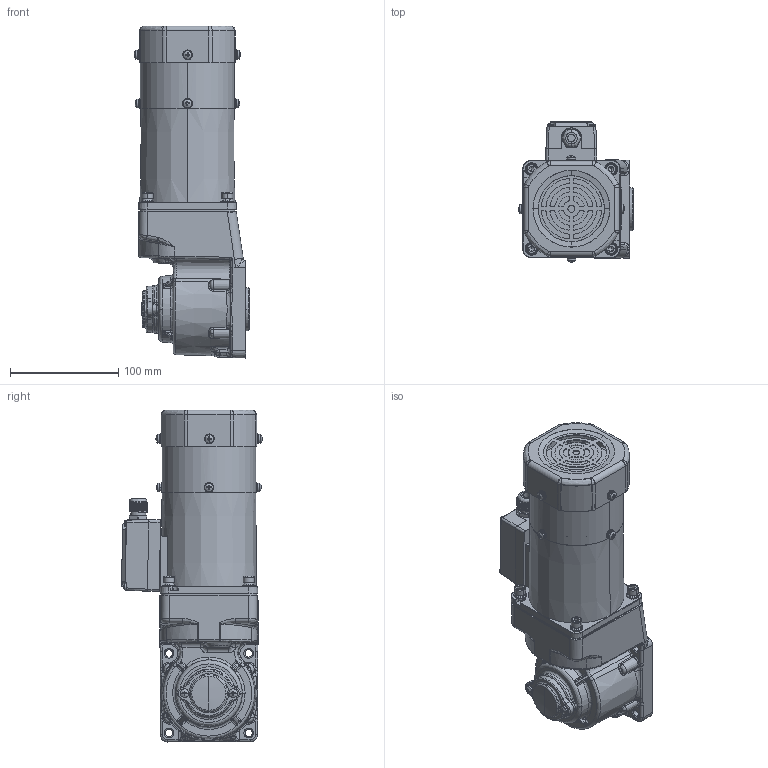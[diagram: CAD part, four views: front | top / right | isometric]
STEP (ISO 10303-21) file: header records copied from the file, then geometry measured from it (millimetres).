
FILE_DESCRIPTION (( 'STEP AP203' ), '1' );
FILE_NAME ('5RK60GU-CMFT(5GU3RC-180RC)ÐÂ.STEP', '2023-08-17T07:19:35', ( 'Windows User' ), ( 'P R C' ), 'SwSTEP 2.0', 'SolidWorks 2019', '' );
FILE_SCHEMA (( 'CONFIG_CONTROL_DESIGN' ));
Length unit declared in the file: millimetre
Products named in the file (9): 90RT____________^5RK60GU-CMFT(5GU3RC-180RC)ÐÂ(2)_5RK60GU-CMFT(5GU3RC-180RC)ÐÂ; ZD-5GU50RC-505-003______1^5RK60GU-CMFT(5GU3RC-180RC)ÐÂ(2)_5RK60GU-CMFT(5GU3RC-180RC)ÐÂ; 5RK60GU-CMFT(5GU3RC-180RC)陔; 90__________-0^5RK60GU-CMFT(5GU3RC-180RC)陔(2)_5RK60GU-CMFT(5GU3RC-180RC)陔; 5RK60GU-CMFT(5GU3RT-180RT)^5RK60GU-CMFT(5GU3RC-180RC)ÐÂ(2)_5RK60GU-CMFT(5GU3RC-180RC)ÐÂ; cross recessed pan head screws gb_GB_CROSS_SCREWS_TYPE1 M4X6-6  H type-N^5RK60GU-CMFT(5GU3RC-180RC)ÐÂ(2)_5RK60GU-CMFT(5GU3RC-180RC)ÐÂ; hexagon socket head cap screws gb_GB_FASTENER_SCREWS_HSHCS M5X12-N^5RK60GU-CMFT(5GU3RC-180RC)ÐÂ(2)_5RK60GU-CMFT(5GU3RC-180RC)ÐÂ; 90__________^5RK60GU-CMFT(5GU3RC-180RC)陔(2)_5RK60GU-CMFT(5GU3RC-180RC)陔; 5RK60GU-CMFT(5GU3RC-180RC)陔(2)^5RK60GU-CMFT(5GU3RC-180RC)陔
Assembly tree (12 placements, depth 3):
  5RK60GU-CMFT(5GU3RC-180RC)陔
    5RK60GU-CMFT(5GU3RC-180RC)陔(2)^5RK60GU-CMFT(5GU3RC-180RC)陔
      90__________^5RK60GU-CMFT(5GU3RC-180RC)陔(2)_5RK60GU-CMFT(5GU3RC-180RC)陔
      90RT____________^5RK60GU-CMFT(5GU3RC-180RC)ÐÂ(2)_5RK60GU-CMFT(5GU3RC-180RC)ÐÂ
      90__________-0^5RK60GU-CMFT(5GU3RC-180RC)陔(2)_5RK60GU-CMFT(5GU3RC-180RC)陔
      hexagon socket head cap screws gb_GB_FASTENER_SCREWS_HSHCS M5X12-N^5RK60GU-CMFT(5GU3RC-180RC)ÐÂ(2)_5RK60GU-CMFT(5GU3RC-180RC)ÐÂ  x4
      ZD-5GU50RC-505-003______1^5RK60GU-CMFT(5GU3RC-180RC)ÐÂ(2)_5RK60GU-CMFT(5GU3RC-180RC)ÐÂ
      cross recessed pan head screws gb_GB_CROSS_SCREWS_TYPE1 M4X6-6  H type-N^5RK60GU-CMFT(5GU3RC-180RC)ÐÂ(2)_5RK60GU-CMFT(5GU3RC-180RC)ÐÂ  x2
      5RK60GU-CMFT(5GU3RT-180RT)^5RK60GU-CMFT(5GU3RC-180RC)ÐÂ(2)_5RK60GU-CMFT(5GU3RC-180RC)ÐÂ
Bounding box: 106.56 x 129.69 x 306.54 mm (x, y, z)
Volume: 1594406.2 mm3; surface area: 262621.6 mm2
Topology: 58 solids, 58 shells, 3136 faces, 7865 edges, 4772 vertices
Faces by surface type: cylinder 892, plane 867, cone 703, bspline 584, torus 84, sphere 6
Entity records: 125569 total; most frequent: CARTESIAN_POINT 56782, ORIENTED_EDGE 14962, DIRECTION 13292, EDGE_CURVE 7481, AXIS2_PLACEMENT_3D 5288, VERTEX_POINT 4629, EDGE_LOOP 3218, ADVANCED_FACE 3036
